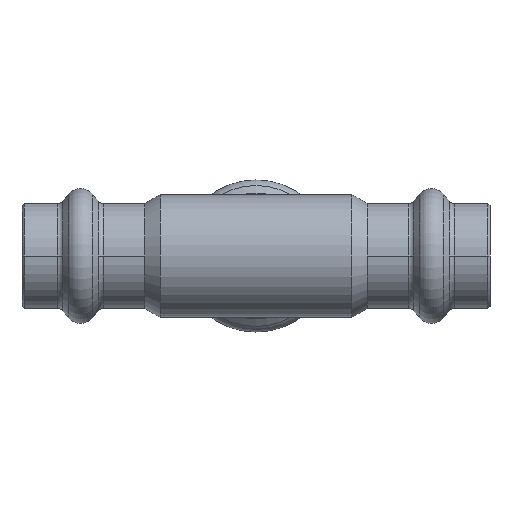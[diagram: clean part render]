
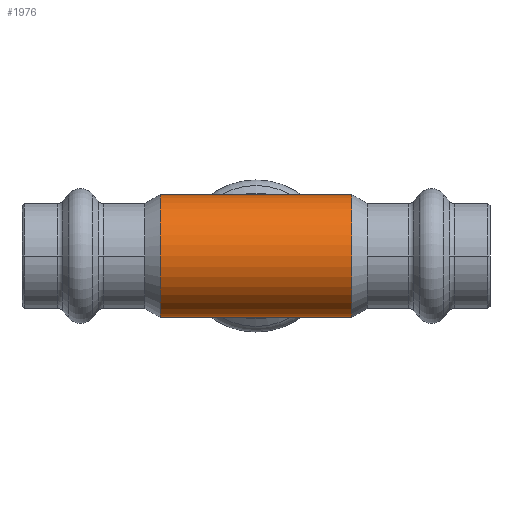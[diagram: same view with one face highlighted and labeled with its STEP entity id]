
A CAD part, front view. The second image highlights one B-rep face of the part: STEP entity #1976.
In plain terms, the highlighted cylindrical face has radius 10.5 mm (diameter 21 mm), a partial arc.
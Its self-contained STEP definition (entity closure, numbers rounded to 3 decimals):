
#79 = DIRECTION ( 'NONE',  ( 1., 0., 0. ) ) ;
#141 = DIRECTION ( 'NONE',  ( 0., 0., 1. ) ) ;
#313 = CARTESIAN_POINT ( 'NONE',  ( 16.36, 0., 10.5 ) ) ;
#626 = VERTEX_POINT ( 'NONE', #313 ) ;
#704 = DIRECTION ( 'NONE',  ( 0., 0., 1. ) ) ;
#728 = EDGE_CURVE ( 'NONE', #1149, #3515, #1151, .T. ) ;
#804 = CARTESIAN_POINT ( 'NONE',  ( -58.611, 0., 0. ) ) ;
#952 = EDGE_CURVE ( 'NONE', #4791, #1149, #3854, .T. ) ;
#997 = ORIENTED_EDGE ( 'NONE', *, *, #952, .F. ) ;
#1119 = DIRECTION ( 'NONE',  ( -1., 0., 0. ) ) ;
#1149 = VERTEX_POINT ( 'NONE', #3879 ) ;
#1151 = CIRCLE ( 'NONE', #2651, 10.5 ) ;
#1708 = EDGE_CURVE ( 'NONE', #626, #3515, #4372, .T. ) ;
#1843 = EDGE_CURVE ( 'NONE', #626, #4791, #3551, .T. ) ;
#1922 = CARTESIAN_POINT ( 'NONE',  ( -16.36, 0., 10.5 ) ) ;
#1976 = ADVANCED_FACE ( 'NONE', ( #2693 ), #3406, .T. ) ;
#2093 = CARTESIAN_POINT ( 'NONE',  ( -16.36, 0., 0. ) ) ;
#2106 = VECTOR ( 'NONE', #3579, 1000. ) ;
#2115 = DIRECTION ( 'NONE',  ( -1., 0., 0. ) ) ;
#2125 = DIRECTION ( 'NONE',  ( 0., 0., -1. ) ) ;
#2456 = ORIENTED_EDGE ( 'NONE', *, *, #1708, .T. ) ;
#2651 = AXIS2_PLACEMENT_3D ( 'NONE', #2093, #2115, #2125 ) ;
#2691 = ORIENTED_EDGE ( 'NONE', *, *, #728, .F. ) ;
#2693 = FACE_OUTER_BOUND ( 'NONE', #3001, .T. ) ;
#3001 = EDGE_LOOP ( 'NONE', ( #997, #4593, #2456, #2691 ) ) ;
#3227 = AXIS2_PLACEMENT_3D ( 'NONE', #804, #1119, #704 ) ;
#3406 = CYLINDRICAL_SURFACE ( 'NONE', #3227, 10.5 ) ;
#3421 = CARTESIAN_POINT ( 'NONE',  ( -58.611, 0., -10.5 ) ) ;
#3515 = VERTEX_POINT ( 'NONE', #1922 ) ;
#3551 = CIRCLE ( 'NONE', #3728, 10.5 ) ;
#3579 = DIRECTION ( 'NONE',  ( -1., 0., 0. ) ) ;
#3611 = CARTESIAN_POINT ( 'NONE',  ( -58.611, 0., 10.5 ) ) ;
#3728 = AXIS2_PLACEMENT_3D ( 'NONE', #4391, #79, #141 ) ;
#3801 = VECTOR ( 'NONE', #4684, 1000. ) ;
#3854 = LINE ( 'NONE', #3421, #3801 ) ;
#3879 = CARTESIAN_POINT ( 'NONE',  ( -16.36, 0., -10.5 ) ) ;
#4372 = LINE ( 'NONE', #3611, #2106 ) ;
#4391 = CARTESIAN_POINT ( 'NONE',  ( 16.36, 0., 0. ) ) ;
#4460 = CARTESIAN_POINT ( 'NONE',  ( 16.36, 0., -10.5 ) ) ;
#4593 = ORIENTED_EDGE ( 'NONE', *, *, #1843, .F. ) ;
#4684 = DIRECTION ( 'NONE',  ( -1., 0., 0. ) ) ;
#4791 = VERTEX_POINT ( 'NONE', #4460 ) ;
